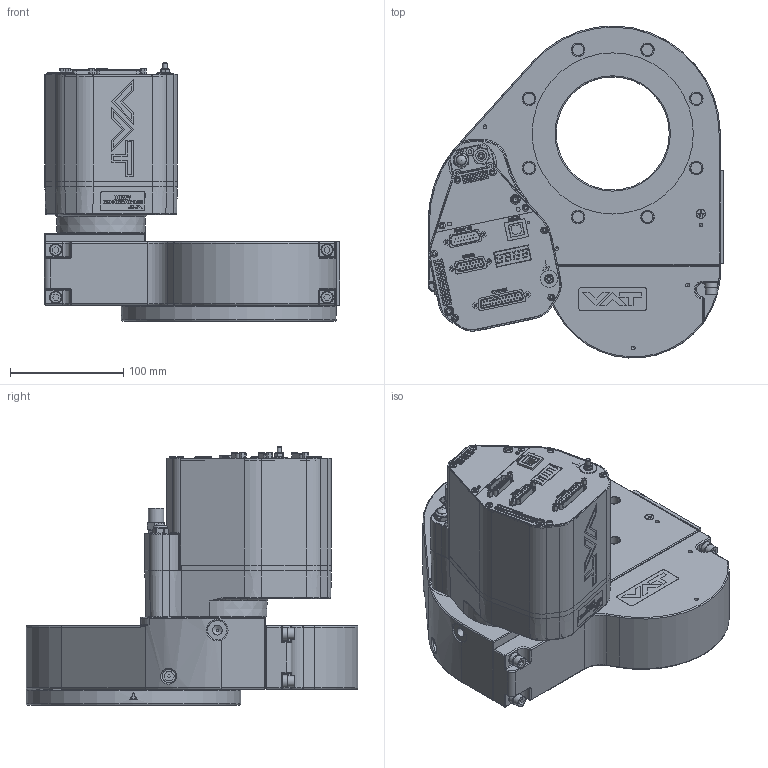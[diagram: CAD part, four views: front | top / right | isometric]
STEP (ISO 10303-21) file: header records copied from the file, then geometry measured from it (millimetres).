
FILE_DESCRIPTION(/* description */ (''),/* implementation_level */ '2;1');
FILE_NAME(/* name */ '1064590696_203.stp',/* time_stamp */ '2024-06-27T17:15:48+08:00',/* author */ (''),/* organization */ (''),/* preprocessor_version */ 'ST-DEVELOPER v19.3',/* originating_system */ 'SIEMENS PLM Software NX2212.6000',/* authorisation */ '');
FILE_SCHEMA (('AP203_CONFIGURATION_CONTROLLED_3D_DESIGN_OF_MECHANICAL_PARTS_AND_ASSEMBLIES_MIM_LF { 1 0 10303 403 2 1 2}'));
Products named in the file (51): 915542; 1062830; 1062211_38716ID; 1062217; n-6053-409.2; n-6171-408.1; 507510; 930887; 1062837; 1062205; 223868.1; 1062209; 1062215; 915758; 1062236_38682ID; 325243.3; 904475; 1062241; 1062232; 736900; 877855; 259932_3.2; 259932_2.3; 259932_1.3; 259932_4.2; 997146; 997143; n-6090-308.1; n-6090-114; n-6091-486.1; N-7636-200.2; 981289; 444307; 930837; 1160969; 366217; 218188.1; 215996.4; 206036.2; 982016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
Assembly tree (103 placements, depth 5):
  1280174
    982016
    997144
      n-6091-486.1  x4
      n-6090-114  x8
      n-6090-308.1  x4
      997143
    997333
      997146
      n-6090-114  x8
    206036.2  x4
    215996.4  x4
    218188.1  x8
    259932.6_NX-ARRAGMNTZUSAMMENST1
      259932_4.2
      259932_1.3
      259932_2.3
      259932_3.2
    366217
    1160969  x2
    930837
    444307  x2
    981289
    949709_NX-ARRAGMNTclosed
      877855
      736900  x4
      1062237
        1062236_38682ID
      1062232
      1062241
      904475
    930908
      325243.3  x4
      1062219
        915758
        1062215
      917030
        1062209
        1062214_MODEL
          1062211_38716ID
        325243.3  x4
        223868.1  x2
        1062205
        1062829
          1062830
          915542
        1062837
        930887  x6
        507510
        n-6171-408.1
        n-6053-409.2
        1062217
        1062215
    N-7636-200.2
Bounding box: 260.95 x 293.46 x 228.2 mm (x, y, z)
Volume: 3085044 mm3; surface area: 606866.9 mm2
Topology: 147 solids, 147 shells, 2804 faces, 6811 edges, 4530 vertices
Faces by surface type: plane 1546, cylinder 811, cone 183, torus 110, extrusion 97, bspline 37, sphere 20
Full cylindrical faces by diameter (mm): 0.7 x15, 1.1 x40, 2 x80, 2.5 x7, 2.9 x6, 3 x10, 3.2 x9, 3.25 x1, 3.26 x2, 3.3 x24, 3.5 x22, 3.96 x2, 4 x7, 4.02 x2, 4.05 x1, 4.16 x2, 4.2 x6, 4.3 x3, 4.5 x5, 4.725 x1, 4.8 x4, 4.96 x12, 4.991 x2, 5 x36, 5.075 x1, 5.1 x1, 5.165 x2, 5.9 x1, 5.963 x2, 5.966 x2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
Entity records: 73550 total; most frequent: CARTESIAN_POINT 15323, DIRECTION 10128, ORIENTED_EDGE 9786, EDGE_CURVE 4893, AXIS2_PLACEMENT_3D 3724, VERTEX_POINT 3660, EDGE_LOOP 3360, VECTOR 2680
